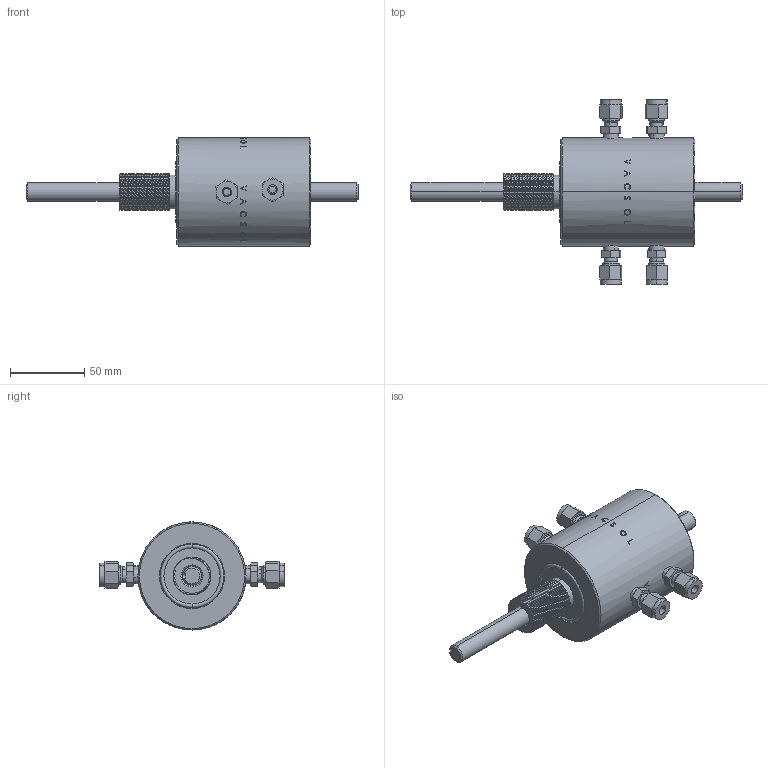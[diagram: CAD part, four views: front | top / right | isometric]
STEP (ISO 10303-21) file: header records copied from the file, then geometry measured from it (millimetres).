
FILE_DESCRIPTION (( 'STEP AP203' ), '1' );
FILE_NAME ('61031.STEP', '2010-12-13T04:37:06', ( 'user' ), ( '' ), 'SwSTEP 2.0', 'SolidWorks 2007', '' );
FILE_SCHEMA (( 'CONFIG_CONTROL_DESIGN' ));
Length unit declared in the file: millimetre
Products named in the file (3): 61031; p61031_??; SS_400_1_2_??
Assembly tree (5 placements, depth 2):
  61031
    SS_400_1_2_??  x4
    p61031_??
Bounding box: 223.83 x 124.5 x 72.9 mm (x, y, z)
Volume: 419776.3 mm3; surface area: 49219.2 mm2
Topology: 6 solids, 6 shells, 590 faces, 1444 edges, 912 vertices
Faces by surface type: bspline 179, cylinder 166, cone 150, plane 91, torus 4
Entity records: 29702 total; most frequent: CARTESIAN_POINT 21676, ORIENTED_EDGE 2048, EDGE_CURVE 1024, DIRECTION 860, VERTEX_POINT 666, B_SPLINE_CURVE_WITH_KNOTS 592, EDGE_LOOP 436, ADVANCED_FACE 398
